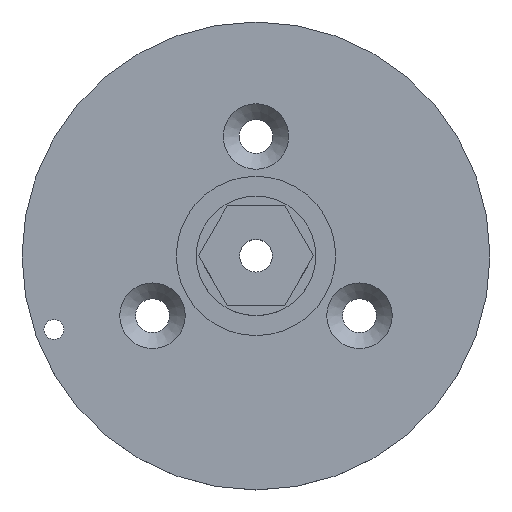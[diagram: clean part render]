
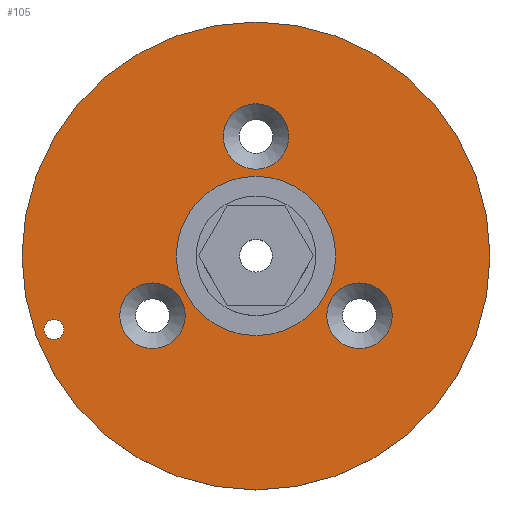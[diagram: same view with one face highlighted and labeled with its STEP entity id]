
A CAD part, top view. The second image highlights one B-rep face of the part: STEP entity #105.
In plain terms, the highlighted planar face has unit normal (0, 0, 1).
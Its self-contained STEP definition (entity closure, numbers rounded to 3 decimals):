
#21 = EDGE_CURVE('',#22,#22,#24,.T.);
#22 = VERTEX_POINT('',#23);
#23 = CARTESIAN_POINT('',(23.5,0.,2.5));
#24 = SURFACE_CURVE('',#25,(#30,#42),.PCURVE_S1.);
#25 = CIRCLE('',#26,23.5);
#26 = AXIS2_PLACEMENT_3D('',#27,#28,#29);
#27 = CARTESIAN_POINT('',(0.,0.,2.5));
#28 = DIRECTION('',(0.,0.,1.));
#29 = DIRECTION('',(1.,0.,-0.));
#30 = PCURVE('',#31,#36);
#31 = CYLINDRICAL_SURFACE('',#32,23.5);
#32 = AXIS2_PLACEMENT_3D('',#33,#34,#35);
#33 = CARTESIAN_POINT('',(0.,0.,0.));
#34 = DIRECTION('',(0.,0.,1.));
#35 = DIRECTION('',(1.,0.,-0.));
#36 = DEFINITIONAL_REPRESENTATION('',(#37),#41);
#37 = LINE('',#38,#39);
#38 = CARTESIAN_POINT('',(0.,2.5));
#39 = VECTOR('',#40,1.);
#40 = DIRECTION('',(1.,0.));
#41 = ( GEOMETRIC_REPRESENTATION_CONTEXT(2) 
PARAMETRIC_REPRESENTATION_CONTEXT() REPRESENTATION_CONTEXT('2D SPACE',''
  ) );
#42 = PCURVE('',#43,#48);
#43 = PLANE('',#44);
#44 = AXIS2_PLACEMENT_3D('',#45,#46,#47);
#45 = CARTESIAN_POINT('',(0.,0.,2.5));
#46 = DIRECTION('',(0.,0.,1.));
#47 = DIRECTION('',(1.,0.,-0.));
#48 = DEFINITIONAL_REPRESENTATION('',(#49),#53);
#49 = CIRCLE('',#50,23.5);
#50 = AXIS2_PLACEMENT_2D('',#51,#52);
#51 = CARTESIAN_POINT('',(0.,0.));
#52 = DIRECTION('',(1.,0.));
#53 = ( GEOMETRIC_REPRESENTATION_CONTEXT(2) 
PARAMETRIC_REPRESENTATION_CONTEXT() REPRESENTATION_CONTEXT('2D SPACE',''
  ) );
#105 = ADVANCED_FACE('',(#106,#109,#140,#171,#202,#233),#43,.T.);
#106 = FACE_BOUND('',#107,.T.);
#107 = EDGE_LOOP('',(#108));
#108 = ORIENTED_EDGE('',*,*,#21,.T.);
#109 = FACE_BOUND('',#110,.T.);
#110 = EDGE_LOOP('',(#111));
#111 = ORIENTED_EDGE('',*,*,#112,.F.);
#112 = EDGE_CURVE('',#113,#113,#115,.T.);
#113 = VERTEX_POINT('',#114);
#114 = CARTESIAN_POINT('',(-19.297,-7.388,2.5));
#115 = SURFACE_CURVE('',#116,(#121,#128),.PCURVE_S1.);
#116 = CIRCLE('',#117,1.);
#117 = AXIS2_PLACEMENT_3D('',#118,#119,#120);
#118 = CARTESIAN_POINT('',(-20.297,-7.388,2.5));
#119 = DIRECTION('',(0.,0.,1.));
#120 = DIRECTION('',(1.,0.,-0.));
#121 = PCURVE('',#43,#122);
#122 = DEFINITIONAL_REPRESENTATION('',(#123),#127);
#123 = CIRCLE('',#124,1.);
#124 = AXIS2_PLACEMENT_2D('',#125,#126);
#125 = CARTESIAN_POINT('',(-20.297,-7.388));
#126 = DIRECTION('',(1.,0.));
#127 = ( GEOMETRIC_REPRESENTATION_CONTEXT(2) 
PARAMETRIC_REPRESENTATION_CONTEXT() REPRESENTATION_CONTEXT('2D SPACE',''
  ) );
#128 = PCURVE('',#129,#134);
#129 = CYLINDRICAL_SURFACE('',#130,1.);
#130 = AXIS2_PLACEMENT_3D('',#131,#132,#133);
#131 = CARTESIAN_POINT('',(-20.297,-7.388,-0.5));
#132 = DIRECTION('',(0.,0.,1.));
#133 = DIRECTION('',(1.,0.,-0.));
#134 = DEFINITIONAL_REPRESENTATION('',(#135),#139);
#135 = LINE('',#136,#137);
#136 = CARTESIAN_POINT('',(0.,3.));
#137 = VECTOR('',#138,1.);
#138 = DIRECTION('',(1.,0.));
#139 = ( GEOMETRIC_REPRESENTATION_CONTEXT(2) 
PARAMETRIC_REPRESENTATION_CONTEXT() REPRESENTATION_CONTEXT('2D SPACE',''
  ) );
#140 = FACE_BOUND('',#141,.T.);
#141 = EDGE_LOOP('',(#142));
#142 = ORIENTED_EDGE('',*,*,#143,.F.);
#143 = EDGE_CURVE('',#144,#144,#146,.T.);
#144 = VERTEX_POINT('',#145);
#145 = CARTESIAN_POINT('',(-7.102,-6.,2.5));
#146 = SURFACE_CURVE('',#147,(#152,#159),.PCURVE_S1.);
#147 = CIRCLE('',#148,3.29);
#148 = AXIS2_PLACEMENT_3D('',#149,#150,#151);
#149 = CARTESIAN_POINT('',(-10.392,-6.,2.5));
#150 = DIRECTION('',(0.,0.,1.));
#151 = DIRECTION('',(1.,0.,-0.));
#152 = PCURVE('',#43,#153);
#153 = DEFINITIONAL_REPRESENTATION('',(#154),#158);
#154 = CIRCLE('',#155,3.29);
#155 = AXIS2_PLACEMENT_2D('',#156,#157);
#156 = CARTESIAN_POINT('',(-10.392,-6.));
#157 = DIRECTION('',(1.,0.));
#158 = ( GEOMETRIC_REPRESENTATION_CONTEXT(2) 
PARAMETRIC_REPRESENTATION_CONTEXT() REPRESENTATION_CONTEXT('2D SPACE',''
  ) );
#159 = PCURVE('',#160,#165);
#160 = CONICAL_SURFACE('',#161,1.7,0.782);
#161 = AXIS2_PLACEMENT_3D('',#162,#163,#164);
#162 = CARTESIAN_POINT('',(-10.392,-6.,0.9));
#163 = DIRECTION('',(0.,0.,1.));
#164 = DIRECTION('',(1.,0.,-0.));
#165 = DEFINITIONAL_REPRESENTATION('',(#166),#170);
#166 = LINE('',#167,#168);
#167 = CARTESIAN_POINT('',(0.,1.6));
#168 = VECTOR('',#169,1.);
#169 = DIRECTION('',(1.,0.));
#170 = ( GEOMETRIC_REPRESENTATION_CONTEXT(2) 
PARAMETRIC_REPRESENTATION_CONTEXT() REPRESENTATION_CONTEXT('2D SPACE',''
  ) );
#171 = FACE_BOUND('',#172,.T.);
#172 = EDGE_LOOP('',(#173));
#173 = ORIENTED_EDGE('',*,*,#174,.F.);
#174 = EDGE_CURVE('',#175,#175,#177,.T.);
#175 = VERTEX_POINT('',#176);
#176 = CARTESIAN_POINT('',(13.682,-6.,2.5));
#177 = SURFACE_CURVE('',#178,(#183,#190),.PCURVE_S1.);
#178 = CIRCLE('',#179,3.29);
#179 = AXIS2_PLACEMENT_3D('',#180,#181,#182);
#180 = CARTESIAN_POINT('',(10.392,-6.,2.5));
#181 = DIRECTION('',(0.,0.,1.));
#182 = DIRECTION('',(1.,0.,-0.));
#183 = PCURVE('',#43,#184);
#184 = DEFINITIONAL_REPRESENTATION('',(#185),#189);
#185 = CIRCLE('',#186,3.29);
#186 = AXIS2_PLACEMENT_2D('',#187,#188);
#187 = CARTESIAN_POINT('',(10.392,-6.));
#188 = DIRECTION('',(1.,0.));
#189 = ( GEOMETRIC_REPRESENTATION_CONTEXT(2) 
PARAMETRIC_REPRESENTATION_CONTEXT() REPRESENTATION_CONTEXT('2D SPACE',''
  ) );
#190 = PCURVE('',#191,#196);
#191 = CONICAL_SURFACE('',#192,1.7,0.782);
#192 = AXIS2_PLACEMENT_3D('',#193,#194,#195);
#193 = CARTESIAN_POINT('',(10.392,-6.,0.9));
#194 = DIRECTION('',(0.,0.,1.));
#195 = DIRECTION('',(1.,0.,-0.));
#196 = DEFINITIONAL_REPRESENTATION('',(#197),#201);
#197 = LINE('',#198,#199);
#198 = CARTESIAN_POINT('',(0.,1.6));
#199 = VECTOR('',#200,1.);
#200 = DIRECTION('',(1.,0.));
#201 = ( GEOMETRIC_REPRESENTATION_CONTEXT(2) 
PARAMETRIC_REPRESENTATION_CONTEXT() REPRESENTATION_CONTEXT('2D SPACE',''
  ) );
#202 = FACE_BOUND('',#203,.T.);
#203 = EDGE_LOOP('',(#204));
#204 = ORIENTED_EDGE('',*,*,#205,.F.);
#205 = EDGE_CURVE('',#206,#206,#208,.T.);
#206 = VERTEX_POINT('',#207);
#207 = CARTESIAN_POINT('',(8.,0.,2.5));
#208 = SURFACE_CURVE('',#209,(#214,#221),.PCURVE_S1.);
#209 = CIRCLE('',#210,8.);
#210 = AXIS2_PLACEMENT_3D('',#211,#212,#213);
#211 = CARTESIAN_POINT('',(0.,0.,2.5));
#212 = DIRECTION('',(0.,0.,1.));
#213 = DIRECTION('',(1.,0.,-0.));
#214 = PCURVE('',#43,#215);
#215 = DEFINITIONAL_REPRESENTATION('',(#216),#220);
#216 = CIRCLE('',#217,8.);
#217 = AXIS2_PLACEMENT_2D('',#218,#219);
#218 = CARTESIAN_POINT('',(0.,0.));
#219 = DIRECTION('',(1.,0.));
#220 = ( GEOMETRIC_REPRESENTATION_CONTEXT(2) 
PARAMETRIC_REPRESENTATION_CONTEXT() REPRESENTATION_CONTEXT('2D SPACE',''
  ) );
#221 = PCURVE('',#222,#227);
#222 = CYLINDRICAL_SURFACE('',#223,8.);
#223 = AXIS2_PLACEMENT_3D('',#224,#225,#226);
#224 = CARTESIAN_POINT('',(0.,0.,2.5));
#225 = DIRECTION('',(0.,0.,1.));
#226 = DIRECTION('',(1.,0.,-0.));
#227 = DEFINITIONAL_REPRESENTATION('',(#228),#232);
#228 = LINE('',#229,#230);
#229 = CARTESIAN_POINT('',(0.,0.));
#230 = VECTOR('',#231,1.);
#231 = DIRECTION('',(1.,0.));
#232 = ( GEOMETRIC_REPRESENTATION_CONTEXT(2) 
PARAMETRIC_REPRESENTATION_CONTEXT() REPRESENTATION_CONTEXT('2D SPACE',''
  ) );
#233 = FACE_BOUND('',#234,.T.);
#234 = EDGE_LOOP('',(#235));
#235 = ORIENTED_EDGE('',*,*,#236,.F.);
#236 = EDGE_CURVE('',#237,#237,#239,.T.);
#237 = VERTEX_POINT('',#238);
#238 = CARTESIAN_POINT('',(3.29,12.,2.5));
#239 = SURFACE_CURVE('',#240,(#245,#252),.PCURVE_S1.);
#240 = CIRCLE('',#241,3.29);
#241 = AXIS2_PLACEMENT_3D('',#242,#243,#244);
#242 = CARTESIAN_POINT('',(0.,12.,2.5));
#243 = DIRECTION('',(0.,0.,1.));
#244 = DIRECTION('',(1.,0.,-0.));
#245 = PCURVE('',#43,#246);
#246 = DEFINITIONAL_REPRESENTATION('',(#247),#251);
#247 = CIRCLE('',#248,3.29);
#248 = AXIS2_PLACEMENT_2D('',#249,#250);
#249 = CARTESIAN_POINT('',(0.,12.));
#250 = DIRECTION('',(1.,0.));
#251 = ( GEOMETRIC_REPRESENTATION_CONTEXT(2) 
PARAMETRIC_REPRESENTATION_CONTEXT() REPRESENTATION_CONTEXT('2D SPACE',''
  ) );
#252 = PCURVE('',#253,#258);
#253 = CONICAL_SURFACE('',#254,1.7,0.782);
#254 = AXIS2_PLACEMENT_3D('',#255,#256,#257);
#255 = CARTESIAN_POINT('',(0.,12.,0.9));
#256 = DIRECTION('',(0.,0.,1.));
#257 = DIRECTION('',(1.,0.,-0.));
#258 = DEFINITIONAL_REPRESENTATION('',(#259),#263);
#259 = LINE('',#260,#261);
#260 = CARTESIAN_POINT('',(0.,1.6));
#261 = VECTOR('',#262,1.);
#262 = DIRECTION('',(1.,0.));
#263 = ( GEOMETRIC_REPRESENTATION_CONTEXT(2) 
PARAMETRIC_REPRESENTATION_CONTEXT() REPRESENTATION_CONTEXT('2D SPACE',''
  ) );
